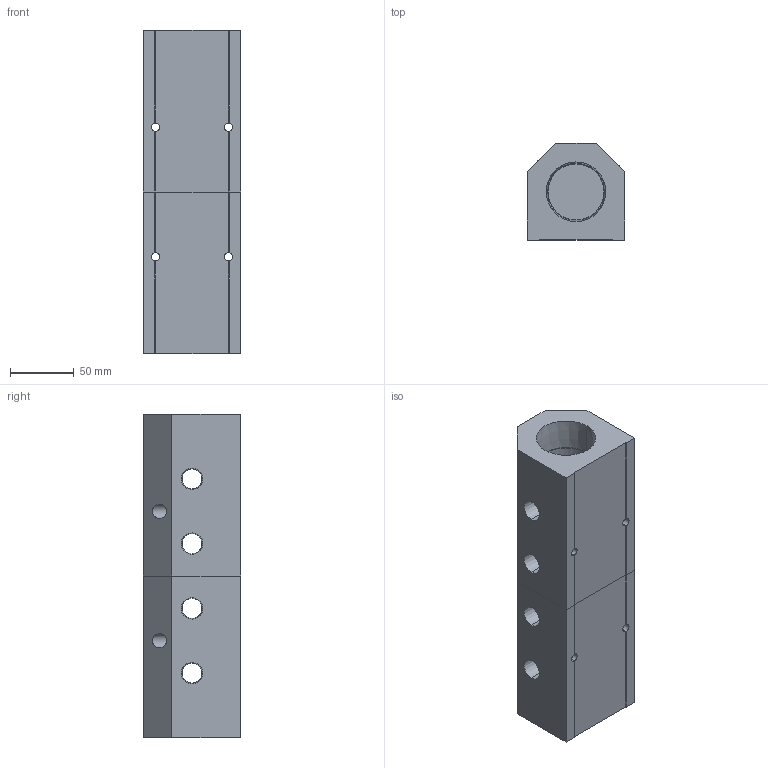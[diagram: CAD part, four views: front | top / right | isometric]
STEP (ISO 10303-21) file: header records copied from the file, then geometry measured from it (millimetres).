
FILE_DESCRIPTION (( 'STEP AP214' ), '1' );
FILE_NAME ('ALM4ACE-N6N24-254RB.step', '2022-02-07T09:15:57', ( '' ), ( '' ), 'SwSTEP 2.0', 'SolidWorks 2020', '' );
FILE_SCHEMA (( 'AUTOMOTIVE_DESIGN' ));
Length unit declared in the file: millimetre
Products named in the file (1): ALM4ACE-N6N24-254RB
Bounding box: 76.2 x 76.2 x 254 mm (x, y, z)
Volume: 901357.7 mm3; surface area: 137646.7 mm2
Topology: 2 solids, 2 shells, 369 faces, 981 edges, 646 vertices
Faces by surface type: plane 265, bspline 56, cone 28, cylinder 20
Entity records: 19632 total; most frequent: CARTESIAN_POINT 7309, ORIENTED_EDGE 1962, DIRECTION 1521, EDGE_CURVE 981, LINE 765, VECTOR 765, VERTEX_POINT 646, EDGE_LOOP 431
